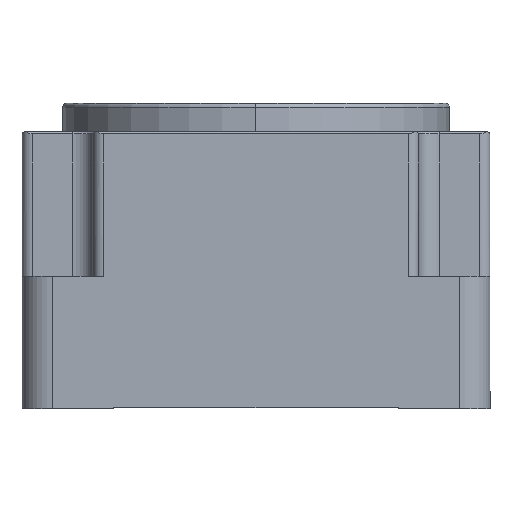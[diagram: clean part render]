
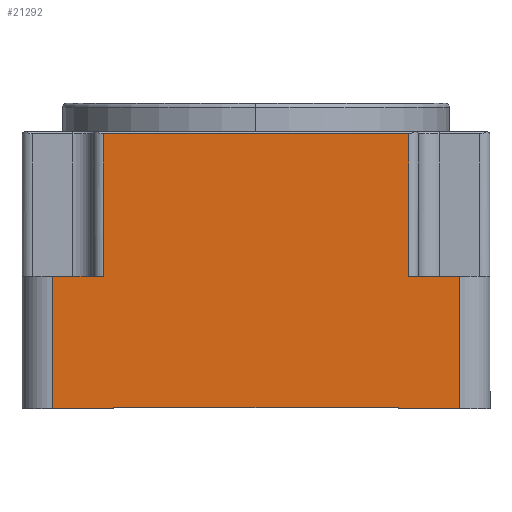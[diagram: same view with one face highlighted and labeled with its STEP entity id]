
A CAD part, left-side view. The second image highlights one B-rep face of the part: STEP entity #21292.
In plain terms, the highlighted planar face has unit normal (-1, 0, 0).
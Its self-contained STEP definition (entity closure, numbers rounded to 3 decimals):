
#409 = DIRECTION ( 'NONE',  ( 0., 0., -1. ) ) ;
#1059 = VECTOR ( 'NONE', #14158, 1000. ) ;
#1187 = CARTESIAN_POINT ( 'NONE',  ( -115., 80., 135. ) ) ;
#1199 = VECTOR ( 'NONE', #13142, 1000. ) ;
#1239 = CARTESIAN_POINT ( 'NONE',  ( -115., -75., 136. ) ) ;
#1458 = CARTESIAN_POINT ( 'NONE',  ( -115., -75., 65. ) ) ;
#1747 = DIRECTION ( 'NONE',  ( 0., 0., 1. ) ) ;
#2378 = VERTEX_POINT ( 'NONE', #4099 ) ;
#2499 = CARTESIAN_POINT ( 'NONE',  ( -115., -100., 0. ) ) ;
#2789 = CARTESIAN_POINT ( 'NONE',  ( -115., -115., 0. ) ) ;
#3358 = VECTOR ( 'NONE', #1747, 1000. ) ;
#3583 = ORIENTED_EDGE ( 'NONE', *, *, #11833, .T. ) ;
#3680 = CARTESIAN_POINT ( 'NONE',  ( -115., 75., 65. ) ) ;
#3709 = ORIENTED_EDGE ( 'NONE', *, *, #24023, .F. ) ;
#3916 = LINE ( 'NONE', #10269, #5958 ) ;
#4002 = ORIENTED_EDGE ( 'NONE', *, *, #17311, .F. ) ;
#4048 = CARTESIAN_POINT ( 'NONE',  ( -115., -75., 135. ) ) ;
#4099 = CARTESIAN_POINT ( 'NONE',  ( -115., -100., 65. ) ) ;
#4221 = CARTESIAN_POINT ( 'NONE',  ( -115., -70., 0. ) ) ;
#4336 = VECTOR ( 'NONE', #9603, 1000. ) ;
#4456 = ORIENTED_EDGE ( 'NONE', *, *, #23132, .T. ) ;
#4546 = DIRECTION ( 'NONE',  ( 0., -1., 0. ) ) ;
#4578 = CARTESIAN_POINT ( 'NONE',  ( -115., -115., 136. ) ) ;
#4727 = CARTESIAN_POINT ( 'NONE',  ( -115., -70., 0.5 ) ) ;
#5017 = VERTEX_POINT ( 'NONE', #27089 ) ;
#5211 = ORIENTED_EDGE ( 'NONE', *, *, #14111, .T. ) ;
#5616 = VERTEX_POINT ( 'NONE', #11324 ) ;
#5743 = CARTESIAN_POINT ( 'NONE',  ( -115., 75., 136. ) ) ;
#5958 = VECTOR ( 'NONE', #18672, 1000. ) ;
#6074 = VECTOR ( 'NONE', #23479, 1000. ) ;
#6666 = LINE ( 'NONE', #15086, #6074 ) ;
#7560 = VECTOR ( 'NONE', #4546, 1000. ) ;
#8473 = LINE ( 'NONE', #16881, #12239 ) ;
#9450 = VERTEX_POINT ( 'NONE', #4048 ) ;
#9468 = LINE ( 'NONE', #17871, #12706 ) ;
#9567 = CARTESIAN_POINT ( 'NONE',  ( -115., 70., 0.5 ) ) ;
#9603 = DIRECTION ( 'NONE',  ( 0., 1., 0. ) ) ;
#9653 = DIRECTION ( 'NONE',  ( 0., 0., 1. ) ) ;
#10269 = CARTESIAN_POINT ( 'NONE',  ( -115., -70., 0.5 ) ) ;
#10892 = LINE ( 'NONE', #19295, #11984 ) ;
#11192 = DIRECTION ( 'NONE',  ( 0., -1., 0. ) ) ;
#11324 = CARTESIAN_POINT ( 'NONE',  ( -115., 100., 65. ) ) ;
#11833 = EDGE_CURVE ( 'NONE', #5017, #25247, #24623, .T. ) ;
#11984 = VECTOR ( 'NONE', #409, 1000. ) ;
#12239 = VECTOR ( 'NONE', #25281, 1000. ) ;
#12242 = LINE ( 'NONE', #20638, #3358 ) ;
#12644 = VECTOR ( 'NONE', #9653, 1000. ) ;
#12706 = VECTOR ( 'NONE', #26287, 1000. ) ;
#12989 = DIRECTION ( 'NONE',  ( 1., 0., 0. ) ) ;
#13142 = DIRECTION ( 'NONE',  ( 0., 0., -1. ) ) ;
#14111 = EDGE_CURVE ( 'NONE', #25569, #2378, #12242, .T. ) ;
#14158 = DIRECTION ( 'NONE',  ( 0., 0., -1. ) ) ;
#14962 = EDGE_CURVE ( 'NONE', #17866, #9450, #20128, .T. ) ;
#15014 = LINE ( 'NONE', #23416, #7560 ) ;
#15046 = EDGE_LOOP ( 'NONE', ( #16820, #4456, #20430, #5211, #3709, #21132, #25335, #3583, #23627, #20279, #17575, #4002 ) ) ;
#15051 = FACE_OUTER_BOUND ( 'NONE', #15046, .T. ) ;
#15086 = CARTESIAN_POINT ( 'NONE',  ( -115., -115., 65. ) ) ;
#15357 = EDGE_CURVE ( 'NONE', #16118, #22803, #3916, .T. ) ;
#16118 = VERTEX_POINT ( 'NONE', #24814 ) ;
#16820 = ORIENTED_EDGE ( 'NONE', *, *, #15357, .F. ) ;
#16881 = CARTESIAN_POINT ( 'NONE',  ( -115., 100., 136. ) ) ;
#17102 = CARTESIAN_POINT ( 'NONE',  ( -115., 70., 0. ) ) ;
#17311 = EDGE_CURVE ( 'NONE', #22803, #23555, #10892, .T. ) ;
#17575 = ORIENTED_EDGE ( 'NONE', *, *, #21632, .T. ) ;
#17866 = VERTEX_POINT ( 'NONE', #1458 ) ;
#17871 = CARTESIAN_POINT ( 'NONE',  ( -115., -115., 65. ) ) ;
#18672 = DIRECTION ( 'NONE',  ( 0., 1., 0. ) ) ;
#19224 = VERTEX_POINT ( 'NONE', #4221 ) ;
#19295 = CARTESIAN_POINT ( 'NONE',  ( -115., 70., 0.5 ) ) ;
#19644 = EDGE_CURVE ( 'NONE', #5616, #25402, #8473, .T. ) ;
#19734 = EDGE_CURVE ( 'NONE', #5616, #25247, #6666, .T. ) ;
#20077 = LINE ( 'NONE', #1187, #4336 ) ;
#20128 = LINE ( 'NONE', #1239, #12644 ) ;
#20279 = ORIENTED_EDGE ( 'NONE', *, *, #19644, .T. ) ;
#20430 = ORIENTED_EDGE ( 'NONE', *, *, #26810, .T. ) ;
#20439 = CARTESIAN_POINT ( 'NONE',  ( -115., 100., 0. ) ) ;
#20638 = CARTESIAN_POINT ( 'NONE',  ( -115., -100., 136. ) ) ;
#21132 = ORIENTED_EDGE ( 'NONE', *, *, #14962, .T. ) ;
#21292 = ADVANCED_FACE ( 'NONE', ( #15051 ), #23455, .F. ) ;
#21376 = DIRECTION ( 'NONE',  ( 0., 0., -1. ) ) ;
#21632 = EDGE_CURVE ( 'NONE', #25402, #23555, #15014, .T. ) ;
#21658 = LINE ( 'NONE', #2789, #24268 ) ;
#22803 = VERTEX_POINT ( 'NONE', #9567 ) ;
#23132 = EDGE_CURVE ( 'NONE', #16118, #19224, #23600, .T. ) ;
#23416 = CARTESIAN_POINT ( 'NONE',  ( -115., -115., 0. ) ) ;
#23455 = PLANE ( 'NONE',  #23810 ) ;
#23479 = DIRECTION ( 'NONE',  ( 0., -1., 0. ) ) ;
#23555 = VERTEX_POINT ( 'NONE', #17102 ) ;
#23600 = LINE ( 'NONE', #4727, #1199 ) ;
#23627 = ORIENTED_EDGE ( 'NONE', *, *, #19734, .F. ) ;
#23810 = AXIS2_PLACEMENT_3D ( 'NONE', #4578, #12989, #21376 ) ;
#24023 = EDGE_CURVE ( 'NONE', #17866, #2378, #9468, .T. ) ;
#24044 = EDGE_CURVE ( 'NONE', #9450, #5017, #20077, .T. ) ;
#24268 = VECTOR ( 'NONE', #11192, 1000. ) ;
#24623 = LINE ( 'NONE', #5743, #1059 ) ;
#24814 = CARTESIAN_POINT ( 'NONE',  ( -115., -70., 0.5 ) ) ;
#25247 = VERTEX_POINT ( 'NONE', #3680 ) ;
#25281 = DIRECTION ( 'NONE',  ( 0., 0., -1. ) ) ;
#25335 = ORIENTED_EDGE ( 'NONE', *, *, #24044, .T. ) ;
#25402 = VERTEX_POINT ( 'NONE', #20439 ) ;
#25569 = VERTEX_POINT ( 'NONE', #2499 ) ;
#26287 = DIRECTION ( 'NONE',  ( 0., -1., 0. ) ) ;
#26810 = EDGE_CURVE ( 'NONE', #19224, #25569, #21658, .T. ) ;
#27089 = CARTESIAN_POINT ( 'NONE',  ( -115., 75., 135. ) ) ;
